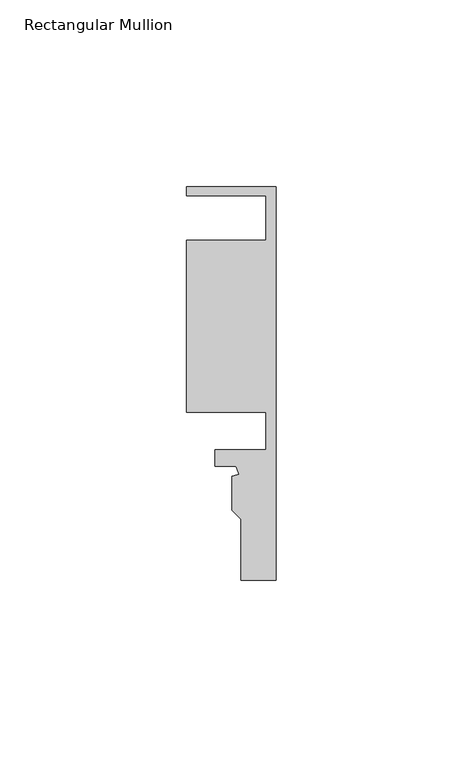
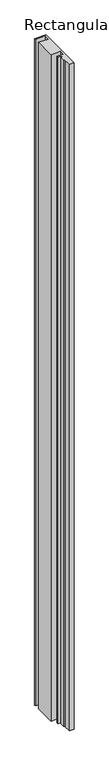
"""IFC4 building model written with IfcOpenShell, lengths in millimetres: member geometry, Rectangular Mullion : Danpal Left Mullion."""

from ifc_helpers import new_model, si_unit, frame, origin, place, context, project, spatial, polyline, outline, extrude, source, transform, mapped, element, save


def rectangular_mullion_2c3513e9(model_context):
    return source(origin(), model_context, "Body", "SweptSolid", [
        extrude(outline(polyline([(0.0, 82.259449), (0.0, -23.1), (-9.4, -23.1), (-9.4, -6.7742641), (-11.85, -4.3242641), (-11.85, 4.7811869), (-9.93698, 5.293779), (-10.7879485, 7.4), (-16.4, 7.4), (-16.4, 11.7887231), (-2.7033587, 11.7887231), (-2.7033587, 21.9008514), (-24.0238408, 21.9008514), (-24.0238408, 67.9), (-2.7033587, 67.9), (-2.7033587, 79.9034272), (-24.0238408, 79.9034272), (-24.0238408, 82.259449), (0.0, 82.259449)])), frame((0.0, 0.0, -1521.5273316), z_axis=(0.0, 0.0, 1.0), x_axis=(1.0, 0.0, 0.0)), (0.0, 0.0, 1.0), 1521.5273316),
    ])


if __name__ == "__main__":
    model = new_model("IFC4")
    model_context = context("Model", 3, world=origin())
    ifc_project = project(units=[si_unit("LENGTHUNIT", "METRE", prefix="MILLI")], contexts=[model_context])
    site = spatial("IfcSite", under=ifc_project)
    building = spatial("IfcBuilding", under=site)
    placement = place(None, origin())
    rectangular_mullion_shape = rectangular_mullion_2c3513e9(model_context)
    element("IfcMember", 1, ObjectType="Rectangular Mullion : Danpal Left Mullion", at=placement, inside=building, context=model_context, shape_type="MappedRepresentation", body=[
        mapped(rectangular_mullion_shape, transform((0.0, 0.0, 0.0), x_axis=(1.0, 0.0, 0.0), y_axis=(0.0, 1.0, 0.0), z_axis=(0.0, 0.0, 1.0))),
    ])
    save(model, "model.ifc")
